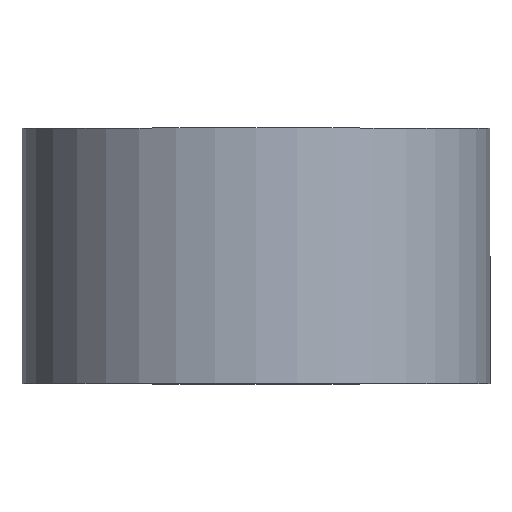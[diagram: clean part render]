
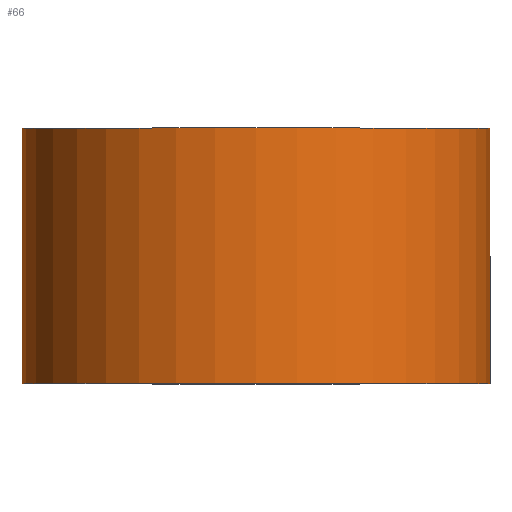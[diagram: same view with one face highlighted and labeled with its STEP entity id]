
A CAD part, top view. The second image highlights one B-rep face of the part: STEP entity #66.
In plain terms, the highlighted cylindrical face has radius 27.5 mm (diameter 55 mm), a partial arc.
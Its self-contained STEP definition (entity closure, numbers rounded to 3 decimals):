
#11 = DIRECTION ( 'NONE',  ( 0., 1., 0. ) ) ;
#17 = EDGE_CURVE ( 'NONE', #224, #283, #256, .T. ) ;
#29 = FACE_OUTER_BOUND ( 'NONE', #203, .T. ) ;
#30 = ORIENTED_EDGE ( 'NONE', *, *, #160, .F. ) ;
#36 = CARTESIAN_POINT ( 'NONE',  ( 0., 0., 0. ) ) ;
#40 = VERTEX_POINT ( 'NONE', #74 ) ;
#57 = CIRCLE ( 'NONE', #162, 27.5 ) ;
#66 = ADVANCED_FACE ( 'NONE', ( #29 ), #268, .T. ) ;
#74 = CARTESIAN_POINT ( 'NONE',  ( -27.5, 0., 0. ) ) ;
#76 = DIRECTION ( 'NONE',  ( 0., 1., 0. ) ) ;
#77 = ORIENTED_EDGE ( 'NONE', *, *, #17, .T. ) ;
#79 = CARTESIAN_POINT ( 'NONE',  ( 27.5, 0., 0. ) ) ;
#84 = VERTEX_POINT ( 'NONE', #195 ) ;
#85 = DIRECTION ( 'NONE',  ( -1., 0., 0. ) ) ;
#100 = DIRECTION ( 'NONE',  ( -1., 0., 0. ) ) ;
#107 = CARTESIAN_POINT ( 'NONE',  ( 0., 0., 0. ) ) ;
#128 = CARTESIAN_POINT ( 'NONE',  ( -27.5, 0., 0. ) ) ;
#129 = CARTESIAN_POINT ( 'NONE',  ( 27.5, 0., 0. ) ) ;
#148 = ORIENTED_EDGE ( 'NONE', *, *, #257, .F. ) ;
#155 = DIRECTION ( 'NONE',  ( -1., 0., 0. ) ) ;
#160 = EDGE_CURVE ( 'NONE', #84, #283, #57, .T. ) ;
#162 = AXIS2_PLACEMENT_3D ( 'NONE', #289, #175, #85 ) ;
#175 = DIRECTION ( 'NONE',  ( 0., 1., 0. ) ) ;
#186 = VECTOR ( 'NONE', #260, 1000. ) ;
#187 = AXIS2_PLACEMENT_3D ( 'NONE', #36, #76, #100 ) ;
#194 = AXIS2_PLACEMENT_3D ( 'NONE', #107, #11, #155 ) ;
#195 = CARTESIAN_POINT ( 'NONE',  ( -27.5, 30., 0. ) ) ;
#198 = ORIENTED_EDGE ( 'NONE', *, *, #243, .T. ) ;
#202 = CARTESIAN_POINT ( 'NONE',  ( 27.5, 30., 0. ) ) ;
#203 = EDGE_LOOP ( 'NONE', ( #198, #77, #30, #148 ) ) ;
#224 = VERTEX_POINT ( 'NONE', #129 ) ;
#229 = LINE ( 'NONE', #128, #282 ) ;
#243 = EDGE_CURVE ( 'NONE', #40, #224, #288, .T. ) ;
#247 = DIRECTION ( 'NONE',  ( 0., 1., 0. ) ) ;
#256 = LINE ( 'NONE', #79, #186 ) ;
#257 = EDGE_CURVE ( 'NONE', #40, #84, #229, .T. ) ;
#260 = DIRECTION ( 'NONE',  ( 0., 1., 0. ) ) ;
#268 = CYLINDRICAL_SURFACE ( 'NONE', #187, 27.5 ) ;
#282 = VECTOR ( 'NONE', #247, 1000. ) ;
#283 = VERTEX_POINT ( 'NONE', #202 ) ;
#288 = CIRCLE ( 'NONE', #194, 27.5 ) ;
#289 = CARTESIAN_POINT ( 'NONE',  ( 0., 30., 0. ) ) ;
